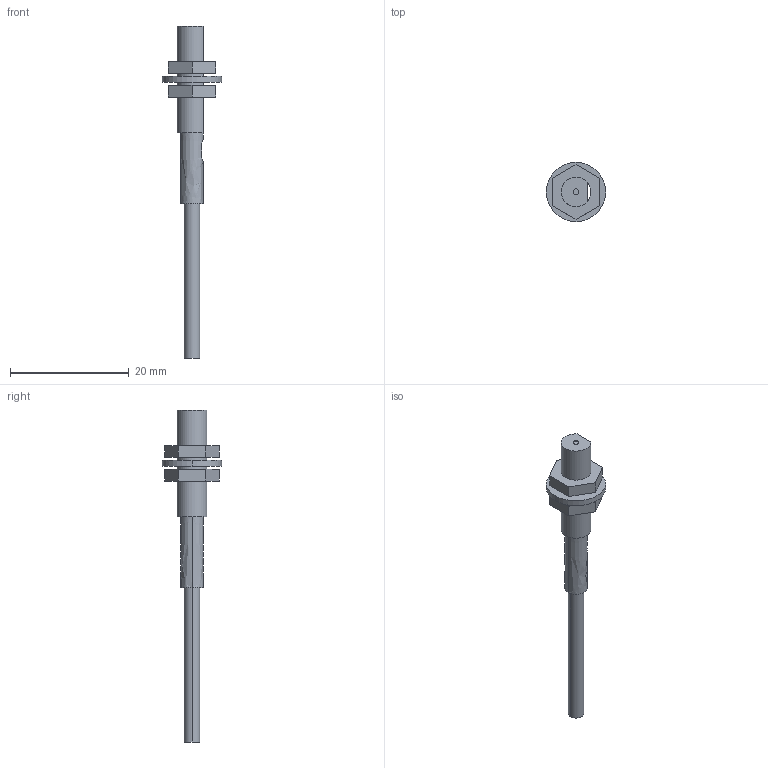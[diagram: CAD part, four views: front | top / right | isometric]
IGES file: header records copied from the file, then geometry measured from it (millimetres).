
Start section: SolidWorks IGES FILE using analytic representation for surfaces
Global section: file name: \\Intra-srv04\開発データ\CAD_Data\CAD委員会\3D電子ｶﾀﾛｸﾞ\製品カタログ（新）\0_IGES\GX-5M.IGS,41HSolidWorks 2004; native system: by SolidWorks Corporation; preprocessor: Version 5.3; author: YK0651; date: 050908.235002; units: millimetre
Bounding box: 10 x 10 x 56 mm (x, y, z)
Volume: 802.5 mm3; surface area: 1154.7 mm2
Topology: 4 solids, 4 shells, 45 faces, 102 edges, 67 vertices
Faces by surface type: plane 27, revolution 18
